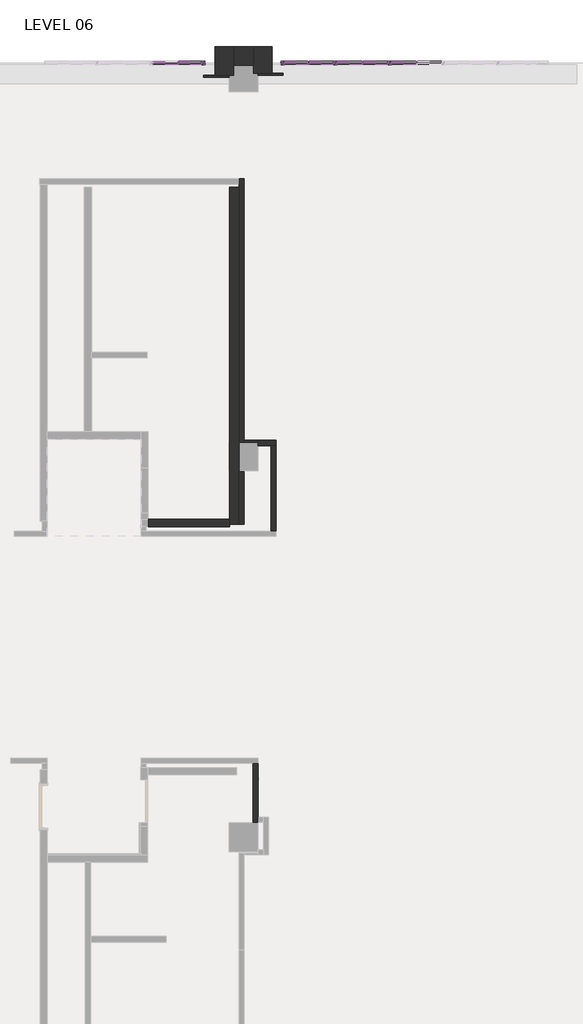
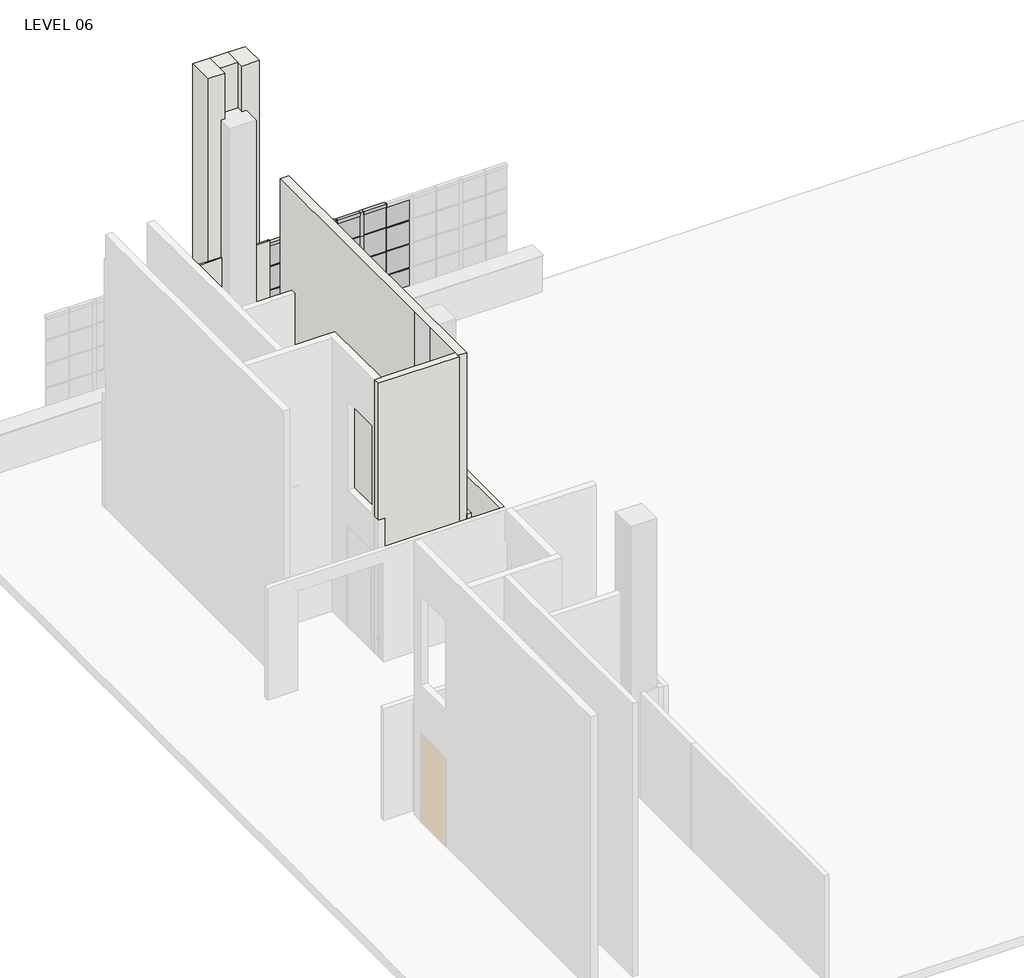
# One storey, part 9 of 16: 66 members, 32 plates, 15 walls.
"""IFC4 building model written with IfcOpenShell, lengths in millimetres."""

from ifc_helpers import new_model, si_unit, frame, origin, place, context, project, spatial, polyline, outline, extrude, faceted_brep, transform, mapped, element, save
from components import member_d9fe2114, member_fd592df6, member_78bb2ef1, member_ba51e770, member_6e5aab5d, member_bacafba3, member_a6d649dc, system_panel_glazed_84a10c8e, system_panel_glazed_44697018, system_panel_glazed_99b9b709, system_panel_glazed_bf1454fd

model = new_model("IFC4")

# Units and contexts
model_context = context("Model", 3, world=origin())
ifc_project = project(units=[si_unit("LENGTHUNIT", "METRE", prefix="MILLI")], contexts=[model_context])

# Site, building, storey
site = spatial("IfcSite", under=ifc_project)
building = spatial("IfcBuilding", under=site)
storey = spatial("IfcBuildingStorey", under=building, Name="LEVEL 06", Elevation=17449.8)

# Members
placement = place(None, origin())
member_shape = member_d9fe2114(model_context)
element("IfcMember", 1, ObjectType="Rectangular Mullion : 1\" x 1\" - Butt Joint", at=placement, inside=storey, context=model_context, shape_type="MappedRepresentation", body=[
    mapped(member_shape, transform((-28228.7321217, -412.75, 19989.8), x_axis=(0.0, 0.0, 1.0), y_axis=(0.0, -1.0, 0.0), z_axis=(1.0, 0.0, 0.0))),
])
element("IfcMember", 2, ObjectType="Rectangular Mullion : 1\" x 1\" - Butt Joint", at=placement, inside=storey, context=model_context, shape_type="MappedRepresentation", body=[
    mapped(member_shape, transform((-27080.6521217, -412.75, 19989.8), x_axis=(0.0, 0.0, 1.0), y_axis=(0.0, -1.0, 0.0), z_axis=(1.0, 0.0, 0.0))),
])
element("IfcMember", 3, ObjectType="Rectangular Mullion : 1\" x 1\" - Butt Joint", at=placement, inside=storey, context=model_context, shape_type="MappedRepresentation", body=[
    mapped(member_shape, transform((-27629.2921217, -412.75, 19989.8), x_axis=(0.0, 0.0, 1.0), y_axis=(0.0, -1.0, 0.0), z_axis=(1.0, 0.0, 0.0))),
])
element("IfcMember", 4, ObjectType="Rectangular Mullion : 1\" x 1\" - Butt Joint", at=placement, inside=storey, context=model_context, shape_type="MappedRepresentation", body=[
    mapped(member_shape, transform((-26481.2121217, -412.75, 19989.8), x_axis=(0.0, 0.0, 1.0), y_axis=(0.0, -1.0, 0.0), z_axis=(1.0, 0.0, 0.0))),
])
element("IfcMember", 5, ObjectType="Rectangular Mullion : 1\" x 1\" - Butt Joint", at=placement, inside=storey, context=model_context, shape_type="MappedRepresentation", body=[
    mapped(member_shape, transform((-28228.7321217, -412.75, 19405.6), x_axis=(0.0, 0.0, 1.0), y_axis=(0.0, -1.0, 0.0), z_axis=(1.0, 0.0, 0.0))),
])
element("IfcMember", 6, ObjectType="Rectangular Mullion : 1\" x 1\" - Butt Joint", at=placement, inside=storey, context=model_context, shape_type="MappedRepresentation", body=[
    mapped(member_shape, transform((-27080.6521217, -412.75, 19405.6), x_axis=(0.0, 0.0, 1.0), y_axis=(0.0, -1.0, 0.0), z_axis=(1.0, 0.0, 0.0))),
])
element("IfcMember", 7, ObjectType="Rectangular Mullion : 1\" x 1\" - Butt Joint", at=placement, inside=storey, context=model_context, shape_type="MappedRepresentation", body=[
    mapped(member_shape, transform((-27629.2921217, -412.75, 19405.6), x_axis=(0.0, 0.0, 1.0), y_axis=(0.0, -1.0, 0.0), z_axis=(1.0, 0.0, 0.0))),
])
element("IfcMember", 8, ObjectType="Rectangular Mullion : 1\" x 1\" - Butt Joint", at=placement, inside=storey, context=model_context, shape_type="MappedRepresentation", body=[
    mapped(member_shape, transform((-26481.2121217, -412.75, 19405.6), x_axis=(0.0, 0.0, 1.0), y_axis=(0.0, -1.0, 0.0), z_axis=(1.0, 0.0, 0.0))),
])
element("IfcMember", 9, ObjectType="Rectangular Mullion : 1\" x 1\" - Butt Joint", at=placement, inside=storey, context=model_context, shape_type="MappedRepresentation", body=[
    mapped(member_shape, transform((-28228.7321217, -412.75, 18821.4), x_axis=(0.0, 0.0, 1.0), y_axis=(0.0, -1.0, 0.0), z_axis=(1.0, 0.0, 0.0))),
])
element("IfcMember", 10, ObjectType="Rectangular Mullion : 1\" x 1\" - Butt Joint", at=placement, inside=storey, context=model_context, shape_type="MappedRepresentation", body=[
    mapped(member_shape, transform((-27080.6521217, -412.75, 18821.4), x_axis=(0.0, 0.0, 1.0), y_axis=(0.0, -1.0, 0.0), z_axis=(1.0, 0.0, 0.0))),
])
element("IfcMember", 11, ObjectType="Rectangular Mullion : 1\" x 1\" - Butt Joint", at=placement, inside=storey, context=model_context, shape_type="MappedRepresentation", body=[
    mapped(member_shape, transform((-27629.2921217, -412.75, 18821.4), x_axis=(0.0, 0.0, 1.0), y_axis=(0.0, -1.0, 0.0), z_axis=(1.0, 0.0, 0.0))),
])
element("IfcMember", 12, ObjectType="Rectangular Mullion : 1\" x 1\" - Butt Joint", at=placement, inside=storey, context=model_context, shape_type="MappedRepresentation", body=[
    mapped(member_shape, transform((-26481.2121217, -412.75, 18821.4), x_axis=(0.0, 0.0, 1.0), y_axis=(0.0, -1.0, 0.0), z_axis=(1.0, 0.0, 0.0))),
])
element("IfcMember", 13, ObjectType="Rectangular Mullion : 1\" x 1\" - Butt Joint", at=placement, inside=storey, context=model_context, shape_type="MappedRepresentation", body=[
    mapped(member_shape, transform((-31532.5110374, -412.75, 19989.8), x_axis=(0.0, 0.0, 1.0), y_axis=(0.0, -1.0, 0.0), z_axis=(1.0, 0.0, 0.0))),
])
element("IfcMember", 14, ObjectType="Rectangular Mullion : 1\" x 1\" - Butt Joint", at=placement, inside=storey, context=model_context, shape_type="MappedRepresentation", body=[
    mapped(member_shape, transform((-31532.5110374, -412.75, 19405.6), x_axis=(0.0, 0.0, 1.0), y_axis=(0.0, -1.0, 0.0), z_axis=(1.0, 0.0, 0.0))),
])
element("IfcMember", 15, ObjectType="Rectangular Mullion : 1\" x 1\" - Butt Joint", at=placement, inside=storey, context=model_context, shape_type="MappedRepresentation", body=[
    mapped(member_shape, transform((-31532.5110374, -412.75, 18821.4), x_axis=(0.0, 0.0, 1.0), y_axis=(0.0, -1.0, 0.0), z_axis=(1.0, 0.0, 0.0))),
])
member_2_shape = member_fd592df6(model_context)
element("IfcMember", 16, ObjectType="Rectangular Mullion : 1\" x 1\" - Butt Joint", at=placement, inside=storey, context=model_context, shape_type="MappedRepresentation", body=[
    mapped(member_2_shape, transform((-28777.3721217, -412.75, 19989.8), x_axis=(0.0, 0.0, 1.0), y_axis=(0.0, -1.0, 0.0), z_axis=(1.0, 0.0, 0.0))),
])
element("IfcMember", 17, ObjectType="Rectangular Mullion : 1\" x 1\" - Butt Joint", at=placement, inside=storey, context=model_context, shape_type="MappedRepresentation", body=[
    mapped(member_2_shape, transform((-28777.3721217, -412.75, 19405.6), x_axis=(0.0, 0.0, 1.0), y_axis=(0.0, -1.0, 0.0), z_axis=(1.0, 0.0, 0.0))),
])
element("IfcMember", 18, ObjectType="Rectangular Mullion : 1\" x 1\" - Butt Joint", at=placement, inside=storey, context=model_context, shape_type="MappedRepresentation", body=[
    mapped(member_2_shape, transform((-28777.3721217, -412.75, 18821.4), x_axis=(0.0, 0.0, 1.0), y_axis=(0.0, -1.0, 0.0), z_axis=(1.0, 0.0, 0.0))),
])
element("IfcMember", 19, ObjectType="Rectangular Mullion : 1\" x 1\" - Butt Joint", at=placement, inside=storey, context=model_context, shape_type="MappedRepresentation", body=[
    mapped(member_2_shape, transform((-31021.9710374, -412.75, 19989.8), x_axis=(0.0, 0.0, 1.0), y_axis=(0.0, -1.0, 0.0), z_axis=(1.0, 0.0, 0.0))),
])
element("IfcMember", 20, ObjectType="Rectangular Mullion : 1\" x 1\" - Butt Joint", at=placement, inside=storey, context=model_context, shape_type="MappedRepresentation", body=[
    mapped(member_2_shape, transform((-31021.9710374, -412.75, 19405.6), x_axis=(0.0, 0.0, 1.0), y_axis=(0.0, -1.0, 0.0), z_axis=(1.0, 0.0, 0.0))),
])
element("IfcMember", 21, ObjectType="Rectangular Mullion : 1\" x 1\" - Butt Joint", at=placement, inside=storey, context=model_context, shape_type="MappedRepresentation", body=[
    mapped(member_2_shape, transform((-31021.9710374, -412.75, 18821.4), x_axis=(0.0, 0.0, 1.0), y_axis=(0.0, -1.0, 0.0), z_axis=(1.0, 0.0, 0.0))),
])
member_3_shape = member_78bb2ef1(model_context)
element("IfcMember", 22, ObjectType="Rectangular Mullion : 1\" x 1\" - Butt Joint", at=placement, inside=storey, context=model_context, shape_type="MappedRepresentation", body=[
    mapped(member_3_shape, transform((-26468.5121217, -412.75, 19989.8), x_axis=(1.0, 0.0, 0.0), y_axis=(0.0, -1.0, 0.0), z_axis=(0.0, 0.0, -1.0))),
])
element("IfcMember", 23, ObjectType="Rectangular Mullion : 1\" x 1\" - Butt Joint", at=placement, inside=storey, context=model_context, shape_type="MappedRepresentation", body=[
    mapped(member_3_shape, transform((-27616.5921217, -412.75, 19989.8), x_axis=(1.0, 0.0, 0.0), y_axis=(0.0, -1.0, 0.0), z_axis=(0.0, 0.0, -1.0))),
])
element("IfcMember", 24, ObjectType="Rectangular Mullion : 1\" x 1\" - Butt Joint", at=placement, inside=storey, context=model_context, shape_type="MappedRepresentation", body=[
    mapped(member_3_shape, transform((-28764.6721217, -412.75, 19989.8), x_axis=(1.0, 0.0, 0.0), y_axis=(0.0, -1.0, 0.0), z_axis=(0.0, 0.0, -1.0))),
])
element("IfcMember", 25, ObjectType="Rectangular Mullion : 1\" x 1\" - Butt Joint", at=placement, inside=storey, context=model_context, shape_type="MappedRepresentation", body=[
    mapped(member_3_shape, transform((-31519.8110374, -412.75, 19989.8), x_axis=(1.0, 0.0, 0.0), y_axis=(0.0, -1.0, 0.0), z_axis=(0.0, 0.0, -1.0))),
])
element("IfcMember", 26, ObjectType="Rectangular Mullion : 1\" x 1\" - Butt Joint", at=placement, inside=storey, context=model_context, shape_type="MappedRepresentation", body=[
    mapped(member_3_shape, transform((-26468.5121217, -412.75, 18821.4), x_axis=(1.0, 0.0, 0.0), y_axis=(0.0, -1.0, 0.0), z_axis=(0.0, 0.0, -1.0))),
])
element("IfcMember", 27, ObjectType="Rectangular Mullion : 1\" x 1\" - Butt Joint", at=placement, inside=storey, context=model_context, shape_type="MappedRepresentation", body=[
    mapped(member_3_shape, transform((-26468.5121217, -412.75, 19405.6), x_axis=(1.0, 0.0, 0.0), y_axis=(0.0, -1.0, 0.0), z_axis=(0.0, 0.0, -1.0))),
])
element("IfcMember", 28, ObjectType="Rectangular Mullion : 1\" x 1\" - Butt Joint", at=placement, inside=storey, context=model_context, shape_type="MappedRepresentation", body=[
    mapped(member_3_shape, transform((-27616.5921217, -412.75, 18821.4), x_axis=(1.0, 0.0, 0.0), y_axis=(0.0, -1.0, 0.0), z_axis=(0.0, 0.0, -1.0))),
])
element("IfcMember", 29, ObjectType="Rectangular Mullion : 1\" x 1\" - Butt Joint", at=placement, inside=storey, context=model_context, shape_type="MappedRepresentation", body=[
    mapped(member_3_shape, transform((-27616.5921217, -412.75, 19405.6), x_axis=(1.0, 0.0, 0.0), y_axis=(0.0, -1.0, 0.0), z_axis=(0.0, 0.0, -1.0))),
])
element("IfcMember", 30, ObjectType="Rectangular Mullion : 1\" x 1\" - Butt Joint", at=placement, inside=storey, context=model_context, shape_type="MappedRepresentation", body=[
    mapped(member_3_shape, transform((-28764.6721217, -412.75, 18821.4), x_axis=(1.0, 0.0, 0.0), y_axis=(0.0, -1.0, 0.0), z_axis=(0.0, 0.0, -1.0))),
])
element("IfcMember", 31, ObjectType="Rectangular Mullion : 1\" x 1\" - Butt Joint", at=placement, inside=storey, context=model_context, shape_type="MappedRepresentation", body=[
    mapped(member_3_shape, transform((-28764.6721217, -412.75, 19405.6), x_axis=(1.0, 0.0, 0.0), y_axis=(0.0, -1.0, 0.0), z_axis=(0.0, 0.0, -1.0))),
])
element("IfcMember", 32, ObjectType="Rectangular Mullion : 1\" x 1\" - Butt Joint", at=placement, inside=storey, context=model_context, shape_type="MappedRepresentation", body=[
    mapped(member_3_shape, transform((-31519.8110374, -412.75, 18821.4), x_axis=(1.0, 0.0, 0.0), y_axis=(0.0, -1.0, 0.0), z_axis=(0.0, 0.0, -1.0))),
])
element("IfcMember", 33, ObjectType="Rectangular Mullion : 1\" x 1\" - Butt Joint", at=placement, inside=storey, context=model_context, shape_type="MappedRepresentation", body=[
    mapped(member_3_shape, transform((-31519.8110374, -412.75, 19405.6), x_axis=(1.0, 0.0, 0.0), y_axis=(0.0, -1.0, 0.0), z_axis=(0.0, 0.0, -1.0))),
])
element("IfcMember", 34, ObjectType="Rectangular Mullion : 1\" x 1\" - Butt Joint", at=placement, inside=storey, context=model_context, shape_type="MappedRepresentation", body=[
    mapped(member_3_shape, transform((-27616.5921217, -412.75, 18237.2), x_axis=(1.0, 0.0, 0.0), y_axis=(0.0, -1.0, 0.0), z_axis=(0.0, 0.0, -1.0))),
])
element("IfcMember", 35, ObjectType="Rectangular Mullion : 1\" x 1\" - Butt Joint", at=placement, inside=storey, context=model_context, shape_type="MappedRepresentation", body=[
    mapped(member_3_shape, transform((-28764.6721217, -412.75, 18237.2), x_axis=(1.0, 0.0, 0.0), y_axis=(0.0, -1.0, 0.0), z_axis=(0.0, 0.0, -1.0))),
])
element("IfcMember", 36, ObjectType="Rectangular Mullion : 1\" x 1\" - Butt Joint", at=placement, inside=storey, context=model_context, shape_type="MappedRepresentation", body=[
    mapped(member_3_shape, transform((-31519.8110374, -412.75, 18237.2), x_axis=(1.0, 0.0, 0.0), y_axis=(0.0, -1.0, 0.0), z_axis=(0.0, 0.0, -1.0))),
])
member_4_shape = member_ba51e770(model_context)
element("IfcMember", 37, ObjectType="Rectangular Mullion : 3\" x 3\" Window Jamb", at=placement, inside=storey, context=model_context, shape_type="MappedRepresentation", body=[
    mapped(member_4_shape, transform((-28777.3721217, -412.75, 20574.0), x_axis=(0.0, 0.0, 1.0), y_axis=(0.0, -1.0, 0.0), z_axis=(1.0, 0.0, 0.0))),
])
element("IfcMember", 38, ObjectType="Rectangular Mullion : 3\" x 3\" Window Jamb", at=placement, inside=storey, context=model_context, shape_type="MappedRepresentation", body=[
    mapped(member_4_shape, transform((-31021.9710374, -412.75, 20574.0), x_axis=(0.0, 0.0, 1.0), y_axis=(0.0, -1.0, 0.0), z_axis=(1.0, 0.0, 0.0))),
])
member_5_shape = member_6e5aab5d(model_context)
element("IfcMember", 39, ObjectType="Rectangular Mullion : 3\" x 3\" Window Jamb", at=placement, inside=storey, context=model_context, shape_type="MappedRepresentation", body=[
    mapped(member_5_shape, transform((-27629.2921217, -412.75, 20574.0), x_axis=(0.0, 0.0, 1.0), y_axis=(0.0, -1.0, 0.0), z_axis=(1.0, 0.0, 0.0))),
])
element("IfcMember", 40, ObjectType="Rectangular Mullion : 3\" x 3\" Window Jamb", at=placement, inside=storey, context=model_context, shape_type="MappedRepresentation", body=[
    mapped(member_5_shape, transform((-26481.2121217, -412.75, 20574.0), x_axis=(0.0, 0.0, 1.0), y_axis=(0.0, -1.0, 0.0), z_axis=(1.0, 0.0, 0.0))),
])
element("IfcMember", 41, ObjectType="Rectangular Mullion : 3\" x 3\" Window Jamb", at=placement, inside=storey, context=model_context, shape_type="MappedRepresentation", body=[
    mapped(member_5_shape, transform((-28228.7321217, -412.75, 20574.0), x_axis=(0.0, 0.0, 1.0), y_axis=(0.0, -1.0, 0.0), z_axis=(1.0, 0.0, 0.0))),
])
element("IfcMember", 42, ObjectType="Rectangular Mullion : 3\" x 3\" Window Jamb", at=placement, inside=storey, context=model_context, shape_type="MappedRepresentation", body=[
    mapped(member_5_shape, transform((-27080.6521217, -412.75, 20574.0), x_axis=(0.0, 0.0, 1.0), y_axis=(0.0, -1.0, 0.0), z_axis=(1.0, 0.0, 0.0))),
])
element("IfcMember", 43, ObjectType="Rectangular Mullion : 3\" x 3\" Window Jamb", at=placement, inside=storey, context=model_context, shape_type="MappedRepresentation", body=[
    mapped(member_5_shape, transform((-31532.5110374, -412.75, 20574.0), x_axis=(0.0, 0.0, 1.0), y_axis=(0.0, -1.0, 0.0), z_axis=(1.0, 0.0, 0.0))),
])
element("IfcMember", 44, ObjectType="Rectangular Mullion : 3\" x 3\" Window Jamb", at=placement, inside=storey, context=model_context, shape_type="MappedRepresentation", body=[
    mapped(member_5_shape, transform((-28751.9721217, -412.75, 18237.2), x_axis=(0.0, 0.0, -1.0), y_axis=(0.0, -1.0, 0.0), z_axis=(-1.0, 0.0, 0.0))),
])
element("IfcMember", 45, ObjectType="Rectangular Mullion : 3\" x 3\" Window Jamb", at=placement, inside=storey, context=model_context, shape_type="MappedRepresentation", body=[
    mapped(member_5_shape, transform((-27603.8921217, -412.75, 18237.2), x_axis=(0.0, 0.0, -1.0), y_axis=(0.0, -1.0, 0.0), z_axis=(-1.0, 0.0, 0.0))),
])
element("IfcMember", 46, ObjectType="Rectangular Mullion : 3\" x 3\" Window Jamb", at=placement, inside=storey, context=model_context, shape_type="MappedRepresentation", body=[
    mapped(member_5_shape, transform((-26455.8121217, -412.75, 18237.2), x_axis=(0.0, 0.0, -1.0), y_axis=(0.0, -1.0, 0.0), z_axis=(-1.0, 0.0, 0.0))),
])
element("IfcMember", 47, ObjectType="Rectangular Mullion : 3\" x 3\" Window Jamb", at=placement, inside=storey, context=model_context, shape_type="MappedRepresentation", body=[
    mapped(member_5_shape, transform((-28152.5321217, -412.75, 18237.2), x_axis=(0.0, 0.0, -1.0), y_axis=(0.0, -1.0, 0.0), z_axis=(-1.0, 0.0, 0.0))),
])
element("IfcMember", 48, ObjectType="Rectangular Mullion : 3\" x 3\" Window Jamb", at=placement, inside=storey, context=model_context, shape_type="MappedRepresentation", body=[
    mapped(member_5_shape, transform((-27004.4521217, -412.75, 18237.2), x_axis=(0.0, 0.0, -1.0), y_axis=(0.0, -1.0, 0.0), z_axis=(-1.0, 0.0, 0.0))),
])
element("IfcMember", 49, ObjectType="Rectangular Mullion : 3\" x 3\" Window Jamb", at=placement, inside=storey, context=model_context, shape_type="MappedRepresentation", body=[
    mapped(member_4_shape, transform((-29262.5121217, -412.75, 18237.2), x_axis=(0.0, 0.0, -1.0), y_axis=(0.0, -1.0, 0.0), z_axis=(-1.0, 0.0, 0.0))),
])
element("IfcMember", 50, ObjectType="Rectangular Mullion : 3\" x 3\" Window Jamb", at=placement, inside=storey, context=model_context, shape_type="MappedRepresentation", body=[
    mapped(member_4_shape, transform((-31507.1110374, -412.75, 18237.2), x_axis=(0.0, 0.0, -1.0), y_axis=(0.0, -1.0, 0.0), z_axis=(-1.0, 0.0, 0.0))),
])
member_6_shape = member_bacafba3(model_context)
element("IfcMember", 51, ObjectType="Rectangular Mullion : 3\" x 3\" Window Jamb", at=placement, inside=storey, context=model_context, shape_type="MappedRepresentation", body=[
    mapped(member_6_shape, transform((-27042.5521217, -412.75, 19989.8), x_axis=(1.0, 0.0, 0.0), y_axis=(0.0, -1.0, 0.0), z_axis=(0.0, 0.0, -1.0))),
])
element("IfcMember", 52, ObjectType="Rectangular Mullion : 3\" x 3\" Window Jamb", at=placement, inside=storey, context=model_context, shape_type="MappedRepresentation", body=[
    mapped(member_6_shape, transform((-28190.6321217, -412.75, 19989.8), x_axis=(1.0, 0.0, 0.0), y_axis=(0.0, -1.0, 0.0), z_axis=(0.0, 0.0, -1.0))),
])
element("IfcMember", 53, ObjectType="Rectangular Mullion : 3\" x 3\" Window Jamb", at=placement, inside=storey, context=model_context, shape_type="MappedRepresentation", body=[
    mapped(member_6_shape, transform((-27042.5521217, -412.75, 18821.4), x_axis=(1.0, 0.0, 0.0), y_axis=(0.0, -1.0, 0.0), z_axis=(0.0, 0.0, -1.0))),
])
element("IfcMember", 54, ObjectType="Rectangular Mullion : 3\" x 3\" Window Jamb", at=placement, inside=storey, context=model_context, shape_type="MappedRepresentation", body=[
    mapped(member_6_shape, transform((-27042.5521217, -412.75, 19405.6), x_axis=(1.0, 0.0, 0.0), y_axis=(0.0, -1.0, 0.0), z_axis=(0.0, 0.0, -1.0))),
])
element("IfcMember", 55, ObjectType="Rectangular Mullion : 3\" x 3\" Window Jamb", at=placement, inside=storey, context=model_context, shape_type="MappedRepresentation", body=[
    mapped(member_6_shape, transform((-28190.6321217, -412.75, 18821.4), x_axis=(1.0, 0.0, 0.0), y_axis=(0.0, -1.0, 0.0), z_axis=(0.0, 0.0, -1.0))),
])
element("IfcMember", 56, ObjectType="Rectangular Mullion : 3\" x 3\" Window Jamb", at=placement, inside=storey, context=model_context, shape_type="MappedRepresentation", body=[
    mapped(member_6_shape, transform((-28190.6321217, -412.75, 19405.6), x_axis=(1.0, 0.0, 0.0), y_axis=(0.0, -1.0, 0.0), z_axis=(0.0, 0.0, -1.0))),
])
element("IfcMember", 57, ObjectType="Rectangular Mullion : 3\" x 3\" Window Jamb", at=placement, inside=storey, context=model_context, shape_type="MappedRepresentation", body=[
    mapped(member_6_shape, transform((-27042.5521217, -412.75, 18237.2), x_axis=(1.0, 0.0, 0.0), y_axis=(0.0, -1.0, 0.0), z_axis=(0.0, 0.0, -1.0))),
])
element("IfcMember", 58, ObjectType="Rectangular Mullion : 3\" x 3\" Window Jamb", at=placement, inside=storey, context=model_context, shape_type="MappedRepresentation", body=[
    mapped(member_6_shape, transform((-28190.6321217, -412.75, 18237.2), x_axis=(1.0, 0.0, 0.0), y_axis=(0.0, -1.0, 0.0), z_axis=(0.0, 0.0, -1.0))),
])
member_7_shape = member_a6d649dc(model_context)
element("IfcMember", 59, ObjectType="Rectangular Mullion : 3\" x 3\" Window Jamb", at=placement, inside=storey, context=model_context, shape_type="MappedRepresentation", body=[
    mapped(member_7_shape, transform((-30945.7710374, -412.75, 19989.8), x_axis=(1.0, 0.0, 0.0), y_axis=(0.0, -1.0, 0.0), z_axis=(0.0, 0.0, -1.0))),
])
element("IfcMember", 60, ObjectType="Rectangular Mullion : 3\" x 3\" Window Jamb", at=placement, inside=storey, context=model_context, shape_type="MappedRepresentation", body=[
    mapped(member_7_shape, transform((-30945.7710374, -412.75, 18821.4), x_axis=(1.0, 0.0, 0.0), y_axis=(0.0, -1.0, 0.0), z_axis=(0.0, 0.0, -1.0))),
])
element("IfcMember", 61, ObjectType="Rectangular Mullion : 3\" x 3\" Window Jamb", at=placement, inside=storey, context=model_context, shape_type="MappedRepresentation", body=[
    mapped(member_7_shape, transform((-30945.7710374, -412.75, 19405.6), x_axis=(1.0, 0.0, 0.0), y_axis=(0.0, -1.0, 0.0), z_axis=(0.0, 0.0, -1.0))),
])
element("IfcMember", 62, ObjectType="Rectangular Mullion : 3\" x 3\" Window Jamb", at=placement, inside=storey, context=model_context, shape_type="MappedRepresentation", body=[
    mapped(member_7_shape, transform((-30945.7710374, -412.75, 18237.2), x_axis=(1.0, 0.0, 0.0), y_axis=(0.0, -1.0, 0.0), z_axis=(0.0, 0.0, -1.0))),
])
element("IfcMember", 63, ObjectType="Rectangular Mullion : 3\" x 3\" Window Jamb", at=placement, inside=storey, context=model_context, shape_type="MappedRepresentation", body=[
    mapped(member_7_shape, transform((-29338.7121217, -412.75, 19989.8), x_axis=(-1.0, 0.0, 0.0), y_axis=(0.0, -1.0, 0.0), z_axis=(0.0, 0.0, 1.0))),
])
element("IfcMember", 64, ObjectType="Rectangular Mullion : 3\" x 3\" Window Jamb", at=placement, inside=storey, context=model_context, shape_type="MappedRepresentation", body=[
    mapped(member_7_shape, transform((-29338.7121217, -412.75, 19405.6), x_axis=(-1.0, 0.0, 0.0), y_axis=(0.0, -1.0, 0.0), z_axis=(0.0, 0.0, 1.0))),
])
element("IfcMember", 65, ObjectType="Rectangular Mullion : 3\" x 3\" Window Jamb", at=placement, inside=storey, context=model_context, shape_type="MappedRepresentation", body=[
    mapped(member_7_shape, transform((-29338.7121217, -412.75, 18821.4), x_axis=(-1.0, 0.0, 0.0), y_axis=(0.0, -1.0, 0.0), z_axis=(0.0, 0.0, 1.0))),
])
element("IfcMember", 66, ObjectType="Rectangular Mullion : 3\" x 3\" Window Jamb", at=placement, inside=storey, context=model_context, shape_type="MappedRepresentation", body=[
    mapped(member_7_shape, transform((-29338.7121217, -412.75, 20574.0), x_axis=(-1.0, 0.0, 0.0), y_axis=(0.0, -1.0, 0.0), z_axis=(0.0, 0.0, 1.0))),
])

# Plates
system_panel_glazed_shape = system_panel_glazed_84a10c8e(model_context)
element("IfcPlate", 67, ObjectType="System Panel : Glazed", at=placement, inside=storey, context=model_context, shape_type="MappedRepresentation", body=[
    mapped(system_panel_glazed_shape, transform((-29019.9421217, -412.75, 18313.4), x_axis=(1.0, 0.0, 0.0), y_axis=(0.0, 1.0, 0.0), z_axis=(0.0, 0.0, 1.0))),
])
element("IfcPlate", 68, ObjectType="System Panel : Glazed", at=placement, inside=storey, context=model_context, shape_type="MappedRepresentation", body=[
    mapped(system_panel_glazed_shape, transform((-29019.9421217, -412.75, 20002.5), x_axis=(1.0, 0.0, 0.0), y_axis=(0.0, 1.0, 0.0), z_axis=(0.0, 0.0, 1.0))),
])
element("IfcPlate", 69, ObjectType="System Panel : Glazed", at=placement, inside=storey, context=model_context, shape_type="MappedRepresentation", body=[
    mapped(system_panel_glazed_shape, transform((-31264.5410374, -412.75, 18313.4), x_axis=(1.0, 0.0, 0.0), y_axis=(0.0, 1.0, 0.0), z_axis=(0.0, 0.0, 1.0))),
])
element("IfcPlate", 70, ObjectType="System Panel : Glazed", at=placement, inside=storey, context=model_context, shape_type="MappedRepresentation", body=[
    mapped(system_panel_glazed_shape, transform((-31264.5410374, -412.75, 20002.5), x_axis=(1.0, 0.0, 0.0), y_axis=(0.0, 1.0, 0.0), z_axis=(0.0, 0.0, 1.0))),
])
system_panel_glazed_2_shape = system_panel_glazed_44697018(model_context)
element("IfcPlate", 71, ObjectType="System Panel : Glazed", at=placement, inside=storey, context=model_context, shape_type="MappedRepresentation", body=[
    mapped(system_panel_glazed_2_shape, transform((-26742.8321217, -412.75, 18313.4), x_axis=(1.0, 0.0, 0.0), y_axis=(0.0, 1.0, 0.0), z_axis=(0.0, 0.0, 1.0))),
])
element("IfcPlate", 72, ObjectType="System Panel : Glazed", at=placement, inside=storey, context=model_context, shape_type="MappedRepresentation", body=[
    mapped(system_panel_glazed_2_shape, transform((-27890.9121217, -412.75, 18313.4), x_axis=(1.0, 0.0, 0.0), y_axis=(0.0, 1.0, 0.0), z_axis=(0.0, 0.0, 1.0))),
])
element("IfcPlate", 73, ObjectType="System Panel : Glazed", at=placement, inside=storey, context=model_context, shape_type="MappedRepresentation", body=[
    mapped(system_panel_glazed_2_shape, transform((-27890.9121217, -412.75, 20002.5), x_axis=(1.0, 0.0, 0.0), y_axis=(0.0, 1.0, 0.0), z_axis=(0.0, 0.0, 1.0))),
])
element("IfcPlate", 74, ObjectType="System Panel : Glazed", at=placement, inside=storey, context=model_context, shape_type="MappedRepresentation", body=[
    mapped(system_panel_glazed_2_shape, transform((-26742.8321217, -412.75, 20002.5), x_axis=(1.0, 0.0, 0.0), y_axis=(0.0, 1.0, 0.0), z_axis=(0.0, 0.0, 1.0))),
])
element("IfcPlate", 75, ObjectType="System Panel : Glazed", at=placement, inside=storey, context=model_context, shape_type="MappedRepresentation", body=[
    mapped(system_panel_glazed_2_shape, transform((-26194.1921217, -412.75, 18313.4), x_axis=(1.0, 0.0, 0.0), y_axis=(0.0, 1.0, 0.0), z_axis=(0.0, 0.0, 1.0))),
])
element("IfcPlate", 76, ObjectType="System Panel : Glazed", at=placement, inside=storey, context=model_context, shape_type="MappedRepresentation", body=[
    mapped(system_panel_glazed_2_shape, transform((-26194.1921217, -412.75, 20002.5), x_axis=(1.0, 0.0, 0.0), y_axis=(0.0, 1.0, 0.0), z_axis=(0.0, 0.0, 1.0))),
])
element("IfcPlate", 77, ObjectType="System Panel : Glazed", at=placement, inside=storey, context=model_context, shape_type="MappedRepresentation", body=[
    mapped(system_panel_glazed_2_shape, transform((-27342.2721217, -412.75, 18313.4), x_axis=(1.0, 0.0, 0.0), y_axis=(0.0, 1.0, 0.0), z_axis=(0.0, 0.0, 1.0))),
])
element("IfcPlate", 78, ObjectType="System Panel : Glazed", at=placement, inside=storey, context=model_context, shape_type="MappedRepresentation", body=[
    mapped(system_panel_glazed_2_shape, transform((-27342.2721217, -412.75, 20002.5), x_axis=(1.0, 0.0, 0.0), y_axis=(0.0, 1.0, 0.0), z_axis=(0.0, 0.0, 1.0))),
])
element("IfcPlate", 79, ObjectType="System Panel : Glazed", at=placement, inside=storey, context=model_context, shape_type="MappedRepresentation", body=[
    mapped(system_panel_glazed_2_shape, transform((-28490.3521217, -412.75, 18313.4), x_axis=(1.0, 0.0, 0.0), y_axis=(0.0, 1.0, 0.0), z_axis=(0.0, 0.0, 1.0))),
])
element("IfcPlate", 80, ObjectType="System Panel : Glazed", at=placement, inside=storey, context=model_context, shape_type="MappedRepresentation", body=[
    mapped(system_panel_glazed_2_shape, transform((-28490.3521217, -412.75, 20002.5), x_axis=(1.0, 0.0, 0.0), y_axis=(0.0, 1.0, 0.0), z_axis=(0.0, 0.0, 1.0))),
])
element("IfcPlate", 81, ObjectType="System Panel : Glazed", at=placement, inside=storey, context=model_context, shape_type="MappedRepresentation", body=[
    mapped(system_panel_glazed_2_shape, transform((-31794.1310374, -412.75, 18313.4), x_axis=(1.0, 0.0, 0.0), y_axis=(0.0, 1.0, 0.0), z_axis=(0.0, 0.0, 1.0))),
])
element("IfcPlate", 82, ObjectType="System Panel : Glazed", at=placement, inside=storey, context=model_context, shape_type="MappedRepresentation", body=[
    mapped(system_panel_glazed_2_shape, transform((-31794.1310374, -412.75, 20002.5), x_axis=(1.0, 0.0, 0.0), y_axis=(0.0, 1.0, 0.0), z_axis=(0.0, 0.0, 1.0))),
])
system_panel_glazed_3_shape = system_panel_glazed_99b9b709(model_context)
element("IfcPlate", 83, ObjectType="System Panel : Glazed", at=placement, inside=storey, context=model_context, shape_type="MappedRepresentation", body=[
    mapped(system_panel_glazed_3_shape, transform((-29019.9421217, -412.75, 19418.3), x_axis=(1.0, 0.0, 0.0), y_axis=(0.0, 1.0, 0.0), z_axis=(0.0, 0.0, 1.0))),
])
element("IfcPlate", 84, ObjectType="System Panel : Glazed", at=placement, inside=storey, context=model_context, shape_type="MappedRepresentation", body=[
    mapped(system_panel_glazed_3_shape, transform((-29019.9421217, -412.75, 18834.1), x_axis=(1.0, 0.0, 0.0), y_axis=(0.0, 1.0, 0.0), z_axis=(0.0, 0.0, 1.0))),
])
element("IfcPlate", 85, ObjectType="System Panel : Glazed", at=placement, inside=storey, context=model_context, shape_type="MappedRepresentation", body=[
    mapped(system_panel_glazed_3_shape, transform((-31264.5410374, -412.75, 18834.1), x_axis=(1.0, 0.0, 0.0), y_axis=(0.0, 1.0, 0.0), z_axis=(0.0, 0.0, 1.0))),
])
element("IfcPlate", 86, ObjectType="System Panel : Glazed", at=placement, inside=storey, context=model_context, shape_type="MappedRepresentation", body=[
    mapped(system_panel_glazed_3_shape, transform((-31264.5410374, -412.75, 19418.3), x_axis=(1.0, 0.0, 0.0), y_axis=(0.0, 1.0, 0.0), z_axis=(0.0, 0.0, 1.0))),
])
system_panel_glazed_4_shape = system_panel_glazed_bf1454fd(model_context)
element("IfcPlate", 87, ObjectType="System Panel : Glazed", at=placement, inside=storey, context=model_context, shape_type="MappedRepresentation", body=[
    mapped(system_panel_glazed_4_shape, transform((-27890.9121217, -412.75, 19418.3), x_axis=(1.0, 0.0, 0.0), y_axis=(0.0, 1.0, 0.0), z_axis=(0.0, 0.0, 1.0))),
])
element("IfcPlate", 88, ObjectType="System Panel : Glazed", at=placement, inside=storey, context=model_context, shape_type="MappedRepresentation", body=[
    mapped(system_panel_glazed_4_shape, transform((-26742.8321217, -412.75, 19418.3), x_axis=(1.0, 0.0, 0.0), y_axis=(0.0, 1.0, 0.0), z_axis=(0.0, 0.0, 1.0))),
])
element("IfcPlate", 89, ObjectType="System Panel : Glazed", at=placement, inside=storey, context=model_context, shape_type="MappedRepresentation", body=[
    mapped(system_panel_glazed_4_shape, transform((-27890.9121217, -412.75, 18834.1), x_axis=(1.0, 0.0, 0.0), y_axis=(0.0, 1.0, 0.0), z_axis=(0.0, 0.0, 1.0))),
])
element("IfcPlate", 90, ObjectType="System Panel : Glazed", at=placement, inside=storey, context=model_context, shape_type="MappedRepresentation", body=[
    mapped(system_panel_glazed_4_shape, transform((-26742.8321217, -412.75, 18834.1), x_axis=(1.0, 0.0, 0.0), y_axis=(0.0, 1.0, 0.0), z_axis=(0.0, 0.0, 1.0))),
])
element("IfcPlate", 91, ObjectType="System Panel : Glazed", at=placement, inside=storey, context=model_context, shape_type="MappedRepresentation", body=[
    mapped(system_panel_glazed_4_shape, transform((-26194.1921217, -412.75, 18834.1), x_axis=(1.0, 0.0, 0.0), y_axis=(0.0, 1.0, 0.0), z_axis=(0.0, 0.0, 1.0))),
])
element("IfcPlate", 92, ObjectType="System Panel : Glazed", at=placement, inside=storey, context=model_context, shape_type="MappedRepresentation", body=[
    mapped(system_panel_glazed_4_shape, transform((-26194.1921217, -412.75, 19418.3), x_axis=(1.0, 0.0, 0.0), y_axis=(0.0, 1.0, 0.0), z_axis=(0.0, 0.0, 1.0))),
])
element("IfcPlate", 93, ObjectType="System Panel : Glazed", at=placement, inside=storey, context=model_context, shape_type="MappedRepresentation", body=[
    mapped(system_panel_glazed_4_shape, transform((-27342.2721217, -412.75, 18834.1), x_axis=(1.0, 0.0, 0.0), y_axis=(0.0, 1.0, 0.0), z_axis=(0.0, 0.0, 1.0))),
])
element("IfcPlate", 94, ObjectType="System Panel : Glazed", at=placement, inside=storey, context=model_context, shape_type="MappedRepresentation", body=[
    mapped(system_panel_glazed_4_shape, transform((-27342.2721217, -412.75, 19418.3), x_axis=(1.0, 0.0, 0.0), y_axis=(0.0, 1.0, 0.0), z_axis=(0.0, 0.0, 1.0))),
])
element("IfcPlate", 95, ObjectType="System Panel : Glazed", at=placement, inside=storey, context=model_context, shape_type="MappedRepresentation", body=[
    mapped(system_panel_glazed_4_shape, transform((-28490.3521217, -412.75, 18834.1), x_axis=(1.0, 0.0, 0.0), y_axis=(0.0, 1.0, 0.0), z_axis=(0.0, 0.0, 1.0))),
])
element("IfcPlate", 96, ObjectType="System Panel : Glazed", at=placement, inside=storey, context=model_context, shape_type="MappedRepresentation", body=[
    mapped(system_panel_glazed_4_shape, transform((-28490.3521217, -412.75, 19418.3), x_axis=(1.0, 0.0, 0.0), y_axis=(0.0, 1.0, 0.0), z_axis=(0.0, 0.0, 1.0))),
])
element("IfcPlate", 97, ObjectType="System Panel : Glazed", at=placement, inside=storey, context=model_context, shape_type="MappedRepresentation", body=[
    mapped(system_panel_glazed_4_shape, transform((-31794.1310374, -412.75, 19418.3), x_axis=(1.0, 0.0, 0.0), y_axis=(0.0, 1.0, 0.0), z_axis=(0.0, 0.0, 1.0))),
])
element("IfcPlate", 98, ObjectType="System Panel : Glazed", at=placement, inside=storey, context=model_context, shape_type="MappedRepresentation", body=[
    mapped(system_panel_glazed_4_shape, transform((-31794.1310374, -412.75, 18834.1), x_axis=(1.0, 0.0, 0.0), y_axis=(0.0, 1.0, 0.0), z_axis=(0.0, 0.0, 1.0))),
])

# Walls
element("IfcWall", 99, ObjectType="Generic Exterior - Brick Three Wythe", at=placement, inside=storey, context=model_context, shape_type="Brep", body=[
    faceted_brep([(-30343.0832298, -654.05, 17449.8), (-30343.0832298, -450.85, 17449.8), (-30343.0832298, -50.8, 17449.8), (-30343.0832298, -50.8, 25273.0), (-30343.0832298, -450.85, 25273.0), (-30343.0832298, -654.05, 25273.0), (-30743.1332298, -654.05, 17449.8), (-30743.1332298, -654.05, 25273.0), (-30743.1332298, -254.0, 25273.0), (-30743.1332298, -50.8, 25273.0), (-30743.1332298, -50.8, 17449.8)], [[[0, 1, 2, 3, 4, 5]], [[6, 7, 8, 9, 10]], [[2, 1, 0, 6, 10]], [[5, 4, 3, 9, 8, 7]], [[0, 5, 7, 6]], [[3, 2, 10, 9]]]),
])
element("IfcWall", 100, ObjectType="Generic Exterior - Brick Three Wythe", at=placement, inside=storey, context=model_context, shape_type="Brep", body=[
    faceted_brep([(-30343.0832298, -450.85, 25273.0), (-30343.0832298, -450.85, 24155.4), (-30343.0832298, -450.85, 17449.8), (-29928.1085758, -450.85, 17449.8), (-29928.1085758, -450.85, 24155.4), (-29928.1085758, -450.85, 25273.0), (-30343.0832298, -50.8, 17449.8), (-30343.0832298, -50.8, 25273.0), (-29928.1085758, -50.8, 25273.0), (-29928.1085758, -50.8, 17449.8), (-30343.0832298, -403.225, 17449.8)], [[[0, 1, 2, 3, 4, 5]], [[6, 7, 8, 9]], [[3, 2, 10, 6, 9]], [[0, 5, 8, 7]], [[5, 4, 3, 9, 8]], [[0, 7, 6, 10, 2, 1]]]),
])
element("IfcWall", 101, ObjectType="Generic Exterior - Brick Three Wythe", at=placement, inside=storey, context=model_context, shape_type="Brep", body=[
    faceted_brep([(-29928.1085758, -50.8, 17449.8), (-29928.1085758, -450.85, 17449.8), (-29928.1085758, -612.775, 17449.8), (-29928.1085758, -612.775, 24155.4), (-29928.1085758, -612.775, 25273.0), (-29928.1085758, -450.85, 25273.0), (-29928.1085758, -50.8, 25273.0), (-29528.0585758, -50.8, 17449.8), (-29528.0585758, -50.8, 25273.0), (-29528.0585758, -212.725, 25273.0), (-29528.0585758, -612.775, 25273.0), (-29528.0585758, -612.775, 17449.8), (-29827.1349596, -612.775, 17449.8)], [[[0, 1, 2, 3, 4, 5, 6]], [[7, 8, 9, 10, 11]], [[2, 1, 0, 7, 11, 12]], [[6, 5, 4, 10, 9, 8]], [[4, 3, 2, 12, 11, 10]], [[0, 6, 8, 7]]]),
])
element("IfcWall", 102, ObjectType="Generic Existing Interior Partition - 6\"", at=placement, inside=storey, context=model_context, shape_type="Brep", body=[
    faceted_brep([(-30435.1582282, -10062.3422401, 17449.8), (-32157.5972362, -10062.3422401, 17449.8), (-32157.5972362, -10062.3422401, 20802.6), (-32309.9972362, -10062.3422401, 20802.6), (-32309.9972362, -10062.3422401, 24155.4), (-32157.5972362, -10062.3422401, 24155.4), (-30435.1582282, -10062.3422401, 24155.4), (-30435.1582282, -10214.7422401, 17449.8), (-30435.1582282, -10214.7422401, 24155.4), (-32309.9972362, -10214.7422401, 24155.4), (-32309.9972362, -10214.7422401, 20802.6), (-32157.5972362, -10214.7422401, 20802.6), (-32157.5972362, -10214.7422401, 17449.8), (-30435.1582282, -10167.1172401, 17449.8), (-30435.1582282, -10167.1172401, 24155.4)], [[[0, 1, 2, 3, 4, 5, 6]], [[7, 8, 9, 10, 11, 12]], [[1, 0, 13, 7, 12]], [[6, 5, 4, 9, 8, 14]], [[0, 6, 14, 8, 7, 13]], [[10, 3, 2, 11]], [[2, 1, 12, 11]], [[3, 10, 9, 4]]]),
])
element("IfcWall", 103, ObjectType="Generic Existing Interior Partition - 8\"", at=placement, inside=storey, context=model_context, shape_type="Brep", body=[
    faceted_brep([(-30231.9582282, -10167.1172401, 17449.8), (-30231.9582282, -9034.9738171, 17449.8), (-30231.9582282, -8425.3738171, 17449.8), (-30231.9582282, -3030.5375, 17449.8), (-30231.9582282, -3030.5375, 24155.4), (-30231.9582282, -8425.3738171, 24155.4), (-30231.9582282, -9034.9738171, 24155.4), (-30231.9582282, -10167.1172401, 24155.4), (-30435.1582282, -10167.1172401, 17449.8), (-30435.1582282, -10167.1172401, 24155.4), (-30435.1582282, -10062.3422401, 24155.4), (-30435.1582282, -9034.9738171, 24155.4), (-30435.1582282, -8425.3738171, 24155.4), (-30435.1582282, -3030.5375, 24155.4), (-30435.1582282, -3030.5375, 17449.8), (-30435.1582282, -8425.3738171, 17449.8), (-30435.1582282, -9034.9738171, 17449.8), (-30435.1582282, -10062.3422401, 17449.8)], [[[0, 1, 2, 3, 4, 5, 6, 7]], [[8, 9, 10, 11, 12, 13, 14, 15, 16, 17]], [[3, 2, 1, 0, 8, 17, 16, 15, 14]], [[4, 3, 14, 13]], [[7, 6, 5, 4, 13, 12, 11, 10, 9]], [[0, 7, 9, 8]]]),
])
element("IfcWall", 104, ObjectType="Partition D3A", at=placement, inside=storey, context=model_context, shape_type="SweptSolid", body=[
    extrude(outline(polyline([(-30124.0082282, -9052.4363168), (-30124.0082282, -10167.1172401), (-30231.9582282, -10167.1172401), (-30231.9582282, -9052.4363168), (-30124.0082282, -9052.4363168)])), frame((0.0, 0.0, 17449.8), z_axis=(0.0, 0.0, 1.0), x_axis=(1.0, 0.0, 0.0)), (0.0, 0.0, 1.0), 2743.2),
])
element("IfcWall", 105, ObjectType="Partition D3A", at=placement, inside=storey, context=model_context, shape_type="Brep", body=[
    faceted_brep([(-30233.5457282, -2844.8, 17449.8), (-30233.5457282, -2968.625, 17449.8), (-30233.5457282, -8425.3738171, 17449.8), (-30233.5457282, -8425.3738171, 20193.0), (-30233.5457282, -2968.625, 20193.0), (-30233.5457282, -2844.8, 20193.0), (-30125.5957282, -2844.8, 17449.8), (-30125.5957282, -2844.8, 20193.0), (-30125.5957282, -8390.4488171, 20193.0), (-30125.5957282, -8425.3738171, 20193.0), (-30125.5957282, -8425.3738171, 17449.8), (-30125.5957282, -8390.4488171, 17449.8)], [[[0, 1, 2, 3, 4, 5]], [[6, 7, 8, 9, 10, 11]], [[2, 1, 0, 6, 11, 10]], [[5, 4, 3, 9, 8, 7]], [[3, 2, 10, 9]], [[0, 5, 7, 6]]]),
])
element("IfcWall", 106, ObjectType="Partition D3A", at=placement, inside=storey, context=model_context, shape_type="Brep", body=[
    faceted_brep([(-29827.1349596, -16474.5101345, 17449.8), (-29827.1349596, -16366.5601345, 17449.8), (-29827.1349596, -15224.8919725, 17449.8), (-29827.1349596, -15224.8919725, 20193.0), (-29827.1349596, -15224.8919725, 20574.0), (-29827.1349596, -16474.5101345, 20574.0), (-29827.1349596, -16474.5101345, 20040.6), (-29935.0849596, -16474.5101345, 17449.8), (-29935.0849596, -16474.5101345, 20574.0), (-29935.0849596, -15224.8919725, 20574.0), (-29935.0849596, -15224.8919725, 17449.8)], [[[0, 1, 2, 3, 4, 5, 6]], [[7, 8, 9, 10]], [[2, 1, 0, 7, 10]], [[5, 4, 9, 8]], [[0, 6, 5, 8, 7]], [[4, 3, 2, 10, 9]]]),
])
element("IfcWall", 107, ObjectType="Partition D3A", at=placement, inside=storey, context=model_context, shape_type="Brep", body=[
    faceted_brep([(-29827.1349596, -8498.3988171, 17449.8), (-29554.0849596, -8498.3988171, 17449.8), (-29446.1349596, -8498.3988171, 17449.8), (-29446.1349596, -8498.3988171, 20193.0), (-29554.0849596, -8498.3988171, 20193.0), (-29827.1349596, -8498.3988171, 20193.0), (-29827.1349596, -8390.4488171, 17449.8), (-29827.1349596, -8390.4488171, 20193.0), (-29446.1349596, -8390.4488171, 20193.0), (-29446.1349596, -8390.4488171, 17449.8), (-29827.1349596, -8425.3738171, 17449.8), (-29827.1349596, -8425.3738171, 20193.0)], [[[0, 1, 2, 3, 4, 5]], [[6, 7, 8, 9]], [[2, 1, 0, 10, 6, 9]], [[5, 4, 3, 8, 7, 11]], [[0, 5, 11, 7, 6, 10]], [[3, 2, 9, 8]]]),
])
element("IfcWall", 108, ObjectType="Partition D3A", at=placement, inside=storey, context=model_context, shape_type="SweptSolid", body=[
    extrude(outline(polyline([(-29554.0849596, -10309.9922401), (-29554.0849596, -8498.3988171), (-29446.1349596, -8498.3988171), (-29446.1349596, -10309.9922401), (-29554.0849596, -10309.9922401)])), frame((0.0, 0.0, 17449.8), z_axis=(0.0, 0.0, 1.0), x_axis=(1.0, 0.0, 0.0)), (0.0, 0.0, 1.0), 2743.2),
])
element("IfcWall", 109, ObjectType="Partition F0_", at=placement, inside=storey, context=model_context, shape_type="SweptSolid", body=[
    extrude(outline(polyline([(-29827.1349596, -8425.3738171), (-30125.5957282, -8425.3738171), (-30125.5957282, -8390.4488171), (-29827.1349596, -8390.4488171), (-29827.1349596, -8425.3738171)])), frame((0.0, 0.0, 17449.8), z_axis=(0.0, 0.0, 1.0), x_axis=(1.0, 0.0, 0.0)), (0.0, 0.0, 1.0), 2743.2),
])
element("IfcWall", 110, ObjectType="Partition F0_", at=placement, inside=storey, context=model_context, shape_type="Brep", body=[
    faceted_brep([(-29303.7871217, -620.7125, 18364.2), (-29338.7121217, -620.7125, 18364.2), (-29827.1349596, -620.7125, 18364.2), (-29827.1349596, -620.7125, 20802.6), (-29338.7121217, -620.7125, 20802.6), (-29303.7871217, -620.7125, 20802.6), (-29303.7871217, -655.6375, 18364.2), (-29303.7871217, -655.6375, 20802.6), (-29827.1349596, -655.6375, 20802.6), (-29827.1349596, -655.6375, 18364.2)], [[[0, 1, 2, 3, 4, 5]], [[6, 7, 8, 9]], [[2, 1, 0, 6, 9]], [[3, 2, 9, 8]], [[5, 4, 3, 8, 7]], [[0, 5, 7, 6]]]),
])
element("IfcWall", 111, ObjectType="Partition F0_", at=placement, inside=storey, context=model_context, shape_type="Brep", body=[
    faceted_brep([(-30436.7349596, -661.9875, 18364.2), (-30945.7710374, -661.9875, 18364.2), (-30980.6960374, -661.9875, 18364.2), (-30980.6960374, -661.9875, 20802.6), (-30945.7710374, -661.9875, 20802.6), (-30436.7349596, -661.9875, 20802.6), (-30436.7349596, -696.9125, 18364.2), (-30436.7349596, -696.9125, 20802.6), (-30980.6960374, -696.9125, 20802.6), (-30980.6960374, -696.9125, 18364.2)], [[[0, 1, 2, 3, 4, 5]], [[6, 7, 8, 9]], [[2, 1, 0, 6, 9]], [[5, 4, 3, 8, 7]], [[0, 5, 7, 6]], [[3, 2, 9, 8]]]),
])
element("IfcWall", 112, ObjectType="Partition F0_", at=placement, inside=storey, context=model_context, shape_type="SweptSolid", body=[
    extrude(outline(polyline([(-30945.7710374, -654.05), (-30945.7710374, -661.9875), (-30980.6960374, -661.9875), (-30980.6960374, -654.05), (-30945.7710374, -654.05)])), frame((0.0, 0.0, 18364.2), z_axis=(0.0, 0.0, 1.0), x_axis=(1.0, 0.0, 0.0)), (0.0, 0.0, 1.0), 2438.4),
])
element("IfcWall", 113, ObjectType="Partition F0_", at=placement, inside=storey, context=model_context, shape_type="SweptSolid", body=[
    extrude(outline(polyline([(-29338.7121217, -620.7125), (-29338.7121217, -612.775), (-29303.7871217, -612.775), (-29303.7871217, -620.7125), (-29338.7121217, -620.7125)])), frame((0.0, 0.0, 18364.2), z_axis=(0.0, 0.0, 1.0), x_axis=(1.0, 0.0, 0.0)), (0.0, 0.0, 1.0), 2438.4),
])

save(model, "model.ifc")
